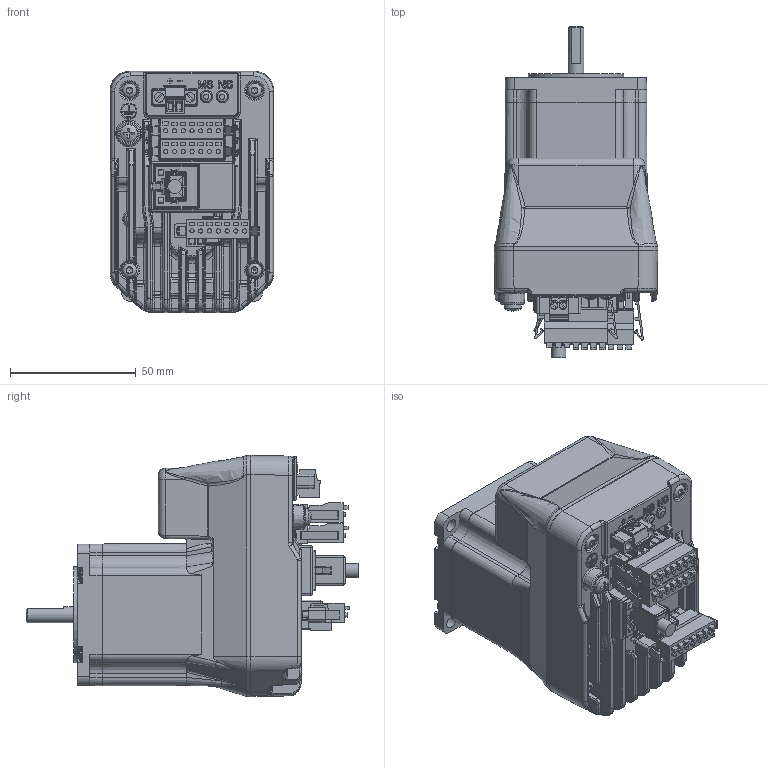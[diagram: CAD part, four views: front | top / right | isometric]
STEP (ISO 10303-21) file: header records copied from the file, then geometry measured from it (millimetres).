
FILE_DESCRIPTION(('LMDXE57-Double-Stack Web Model.stp'),'1');
FILE_NAME('T:/Kubotek Models For Design Assemblies/On-Line web models/LMD23/LMDXE57-Double-Stack Web Model.stp', '2013-04-02T15:56:24',('P. Bordua, 04/02/13'), ('Schneider Electric Motion USA'), 'KCM Version 1.1.514.0', 'Kubotek KeyCreator', 'Kubotek KeyCreator 2012 11.3.1');
FILE_SCHEMA(('AUTOMOTIVE_DESIGN'));
Length unit declared in the file: inch
Bounding box: 65.15 x 132.26 x 96.07 mm (x, y, z)
Volume: 396220.6 mm3; surface area: 65319.5 mm2
Topology: 9 solids, 9 shells, 4390 faces, 11233 edges, 7092 vertices
Faces by surface type: plane 2547, cylinder 940, bspline 643, cone 123, torus 77, sphere 55, extrusion 5
Full cylindrical faces by diameter (mm): 1.6 x31, 1.611 x4, 1.686 x28, 2.5 x2, 3.505 x1, 3.792 x4, 5.004 x6, 5.588 x2, 5.6 x4, 6.35 x1, 6.858 x1, 7.62 x1, 16.18 x1, 38.1 x1
Entity records: 152806 total; most frequent: CARTESIAN_POINT 63716, ORIENTED_EDGE 16938, DIRECTION 14639, EDGE_CURVE 8469, VERTEX_POINT 5332, VECTOR 5217, LINE 5212, AXIS2_PLACEMENT_3D 4711
